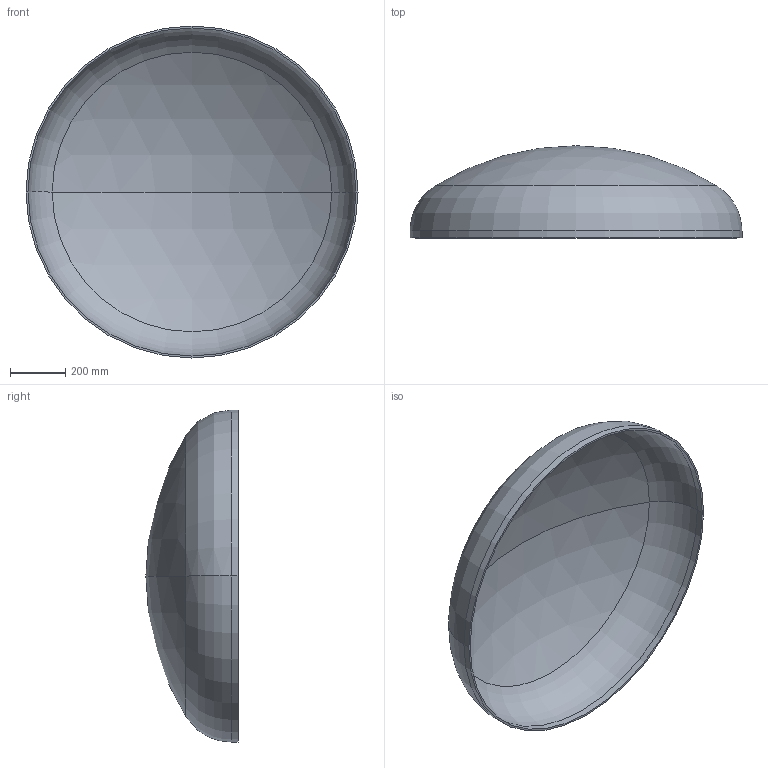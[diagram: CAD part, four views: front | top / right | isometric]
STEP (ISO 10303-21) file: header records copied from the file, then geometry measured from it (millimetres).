
FILE_DESCRIPTION (( 'STEP AP203' ), '1' );
FILE_NAME ('DIN 28013 Korbbogenform_-_Boden DIN 28013 - 1200 x 25 - I - s=7.step', '2016-07-01T09:19:48', ( '' ), ( '' ), 'SwSTEP 2.0', 'SolidWorks 2013', '' );
FILE_SCHEMA (( 'CONFIG_CONTROL_DESIGN' ));
Length unit declared in the file: millimetre
Products named in the file (1): DIN 28013 Korbbogenform_-_Boden DIN 28013 - 1200 x 25 - I - s=7
Bounding box: 1200 x 333.09 x 1200 mm (x, y, z)
Volume: 11538885 mm3; surface area: 3323161.1 mm2
Topology: 1 solids, 1 shells, 13 faces, 24 edges, 14 vertices
Faces by surface type: torus 4, cylinder 4, sphere 4, plane 1
Entity records: 407 total; most frequent: DIRECTION 72, CARTESIAN_POINT 52, ORIENTED_EDGE 48, AXIS2_PLACEMENT_3D 34, EDGE_CURVE 24, CIRCLE 20, VERTEX_POINT 14, EDGE_LOOP 14
